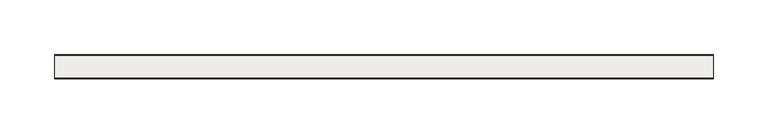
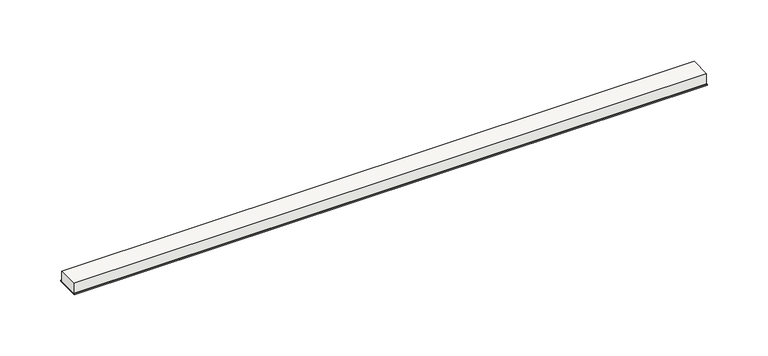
"""IFC4 building model written with IfcOpenShell, lengths in millimetres: covering geometry, SikaSwell® A System : SikaSwell® A System (2010)."""

from ifc_helpers import new_model, si_unit, frame, origin, origin_with_axes, place, context, project, spatial, polyline, outline, extrude, source, transform, mapped, element, save


def covering_769de3e5(model_context):
    return source(origin(), model_context, "Body", "SweptSolid", [
        extrude(outline(polyline([(600.0, 0.0), (600.0, -20.0), (0.0, -20.0), (0.0, 0.0), (600.0, 0.0)])), frame((0.0, 0.0, 1.0), z_axis=(0.0, 0.0, 1.0), x_axis=(1.0, 0.0, 0.0)), (0.0, 0.0, 1.0), 10.0),
        extrude(outline(polyline([(600.0, 1.0), (600.0, -21.0), (0.0, -21.0), (0.0, 1.0), (600.0, 1.0)])), origin_with_axes(), (0.0, 0.0, 1.0), 1.0),
    ])


if __name__ == "__main__":
    model = new_model("IFC4")
    model_context = context("Model", 3, world=origin())
    ifc_project = project(units=[si_unit("LENGTHUNIT", "METRE", prefix="MILLI")], contexts=[model_context])
    site = spatial("IfcSite", under=ifc_project)
    building = spatial("IfcBuilding", under=site)
    placement = place(None, origin())
    covering_shape = covering_769de3e5(model_context)
    element("IfcCovering", 1, ObjectType="SikaSwell® A System : SikaSwell® A System (2010)", at=placement, inside=building, context=model_context, shape_type="MappedRepresentation", body=[
        mapped(covering_shape, transform((0.0, 0.0, 0.0), x_axis=(1.0, 0.0, 0.0), y_axis=(0.0, 1.0, 0.0), z_axis=(0.0, 0.0, 1.0))),
    ])
    save(model, "model.ifc")
